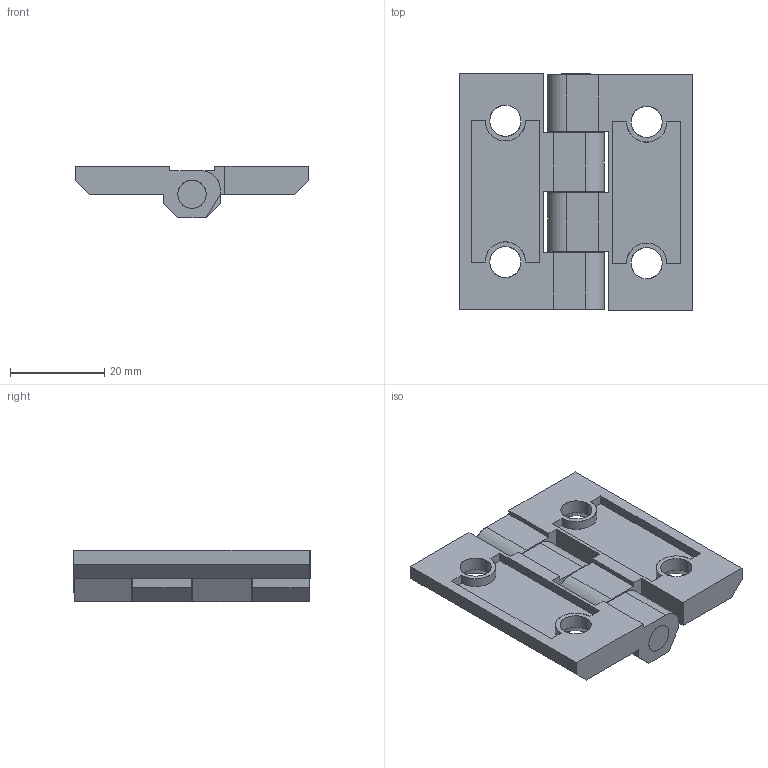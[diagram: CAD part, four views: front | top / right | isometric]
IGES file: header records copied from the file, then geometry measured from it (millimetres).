
Start section: SolidWorks IGES file using analytic representation for surfaces
Global section: file name: C:\Documents and Settings\Deathkiller\桌面\3D IGES\鉸鏈HINGES\CL-226 series\226-2.IGS; native system: SolidWorks 2006 by SolidWorks Corporation; preprocessor: SolidWorks 2006 by SolidWorks Corporation; author: Deathkiller; date: 080620.131922; units: millimetre
Bounding box: 49.43 x 50.25 x 11 mm (x, y, z)
Surface area: 9573.4 mm2 (no closed solid volume)
Topology: 0 solids, 0 shells, 100 faces, 1252 edges, 1252 vertices
Faces by surface type: bspline 66, revolution 34
